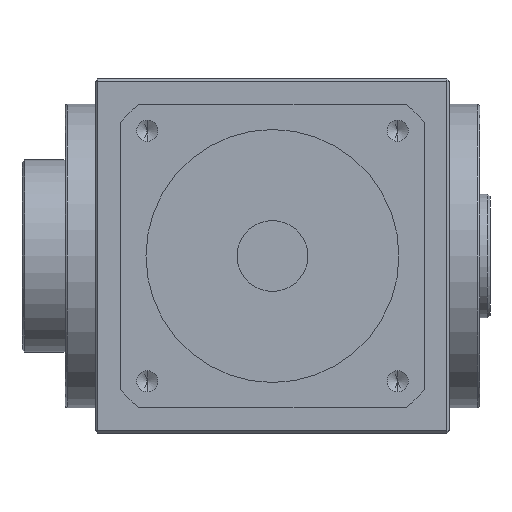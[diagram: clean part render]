
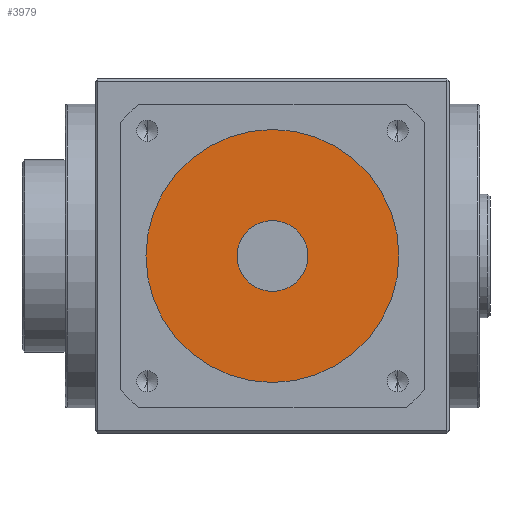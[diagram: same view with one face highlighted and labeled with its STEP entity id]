
A CAD part, front view. The second image highlights one B-rep face of the part: STEP entity #3979.
In plain terms, the highlighted planar face has unit normal (0, -1, 0).
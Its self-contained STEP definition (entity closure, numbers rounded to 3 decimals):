
#30 = EDGE_LOOP ( 'NONE', ( #5577, #5289 ) ) ;
#103 = AXIS2_PLACEMENT_3D ( 'NONE', #740, #1804, #237 ) ;
#237 = DIRECTION ( 'NONE',  ( 0., 0., -1. ) ) ;
#282 = DIRECTION ( 'NONE',  ( 0., 0., -1. ) ) ;
#420 = AXIS2_PLACEMENT_3D ( 'NONE', #3510, #2911, #4593 ) ;
#584 = EDGE_CURVE ( 'NONE', #1853, #1937, #3523, .T. ) ;
#740 = CARTESIAN_POINT ( 'NONE',  ( 0., -114., 0. ) ) ;
#784 = CARTESIAN_POINT ( 'NONE',  ( 0., -114., -25. ) ) ;
#802 = AXIS2_PLACEMENT_3D ( 'NONE', #4538, #6602, #2999 ) ;
#1140 = FACE_BOUND ( 'NONE', #2060, .T. ) ;
#1804 = DIRECTION ( 'NONE',  ( 0., -1., 0. ) ) ;
#1853 = VERTEX_POINT ( 'NONE', #2507 ) ;
#1937 = VERTEX_POINT ( 'NONE', #2622 ) ;
#2046 = CARTESIAN_POINT ( 'NONE',  ( 0., -114., 0. ) ) ;
#2060 = EDGE_LOOP ( 'NONE', ( #4522, #5836 ) ) ;
#2283 = EDGE_CURVE ( 'NONE', #1937, #1853, #5608, .T. ) ;
#2507 = CARTESIAN_POINT ( 'NONE',  ( 0., -114., -7. ) ) ;
#2622 = CARTESIAN_POINT ( 'NONE',  ( 0., -114., 7. ) ) ;
#2911 = DIRECTION ( 'NONE',  ( 0., -1., 0. ) ) ;
#2999 = DIRECTION ( 'NONE',  ( 0., 0., -1. ) ) ;
#3476 = CARTESIAN_POINT ( 'NONE',  ( 0., -114., 0. ) ) ;
#3505 = DIRECTION ( 'NONE',  ( 0., 0., -1. ) ) ;
#3510 = CARTESIAN_POINT ( 'NONE',  ( 0., -114., 0. ) ) ;
#3523 = CIRCLE ( 'NONE', #802, 7. ) ;
#3543 = DIRECTION ( 'NONE',  ( 0., -1., 0. ) ) ;
#3655 = CIRCLE ( 'NONE', #4251, 25. ) ;
#3979 = ADVANCED_FACE ( 'NONE', ( #6818, #1140 ), #6546, .T. ) ;
#4079 = CARTESIAN_POINT ( 'NONE',  ( 0., -114., 25. ) ) ;
#4251 = AXIS2_PLACEMENT_3D ( 'NONE', #3476, #3543, #3505 ) ;
#4522 = ORIENTED_EDGE ( 'NONE', *, *, #584, .T. ) ;
#4538 = CARTESIAN_POINT ( 'NONE',  ( 0., -114., 0. ) ) ;
#4593 = DIRECTION ( 'NONE',  ( 0., 0., -1. ) ) ;
#5083 = VERTEX_POINT ( 'NONE', #4079 ) ;
#5289 = ORIENTED_EDGE ( 'NONE', *, *, #6478, .T. ) ;
#5354 = CIRCLE ( 'NONE', #420, 25. ) ;
#5577 = ORIENTED_EDGE ( 'NONE', *, *, #6625, .T. ) ;
#5608 = CIRCLE ( 'NONE', #6238, 7. ) ;
#5836 = ORIENTED_EDGE ( 'NONE', *, *, #2283, .T. ) ;
#6238 = AXIS2_PLACEMENT_3D ( 'NONE', #2046, #6710, #282 ) ;
#6437 = VERTEX_POINT ( 'NONE', #784 ) ;
#6478 = EDGE_CURVE ( 'NONE', #5083, #6437, #5354, .T. ) ;
#6546 = PLANE ( 'NONE',  #103 ) ;
#6602 = DIRECTION ( 'NONE',  ( 0., 1., 0. ) ) ;
#6625 = EDGE_CURVE ( 'NONE', #6437, #5083, #3655, .T. ) ;
#6710 = DIRECTION ( 'NONE',  ( 0., 1., 0. ) ) ;
#6818 = FACE_OUTER_BOUND ( 'NONE', #30, .T. ) ;
